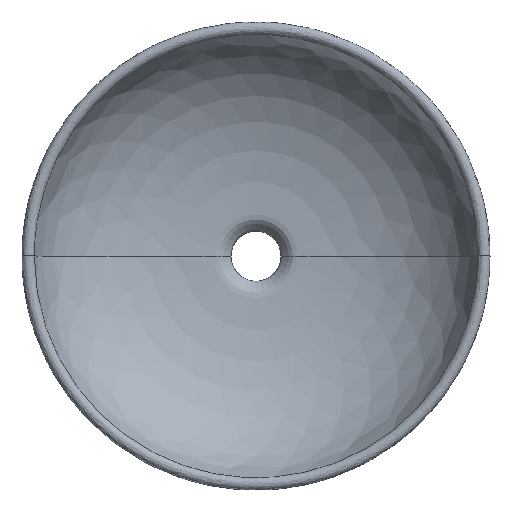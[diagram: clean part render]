
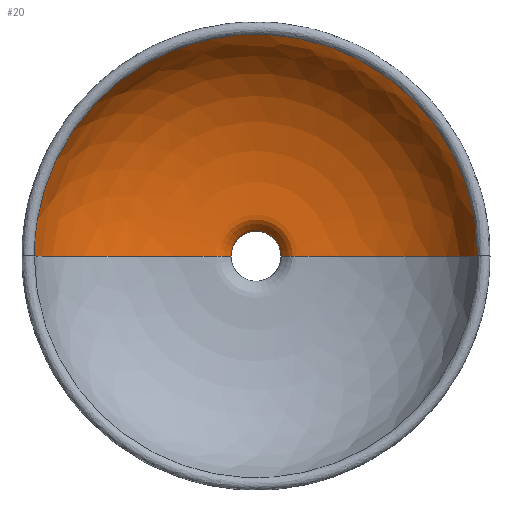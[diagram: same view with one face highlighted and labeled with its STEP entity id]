
A CAD part, top view. The second image highlights one B-rep face of the part: STEP entity #20.
In plain terms, the highlighted free-form (B-spline) face has degree [2, 2] with [11, 5] control points.
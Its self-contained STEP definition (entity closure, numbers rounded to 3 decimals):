
#20=ADVANCED_FACE('',(#26),#96,.T.);
#26=FACE_OUTER_BOUND('',#32,.T.);
#32=EDGE_LOOP('',(#47,#48,#49,#50));
#47=ORIENTED_EDGE('',*,*,#65,.T.);
#48=ORIENTED_EDGE('',*,*,#66,.T.);
#49=ORIENTED_EDGE('',*,*,#61,.F.);
#50=ORIENTED_EDGE('',*,*,#67,.F.);
#61=EDGE_CURVE('',#88,#87,#76,.T.);
#65=EDGE_CURVE('',#90,#91,#79,.T.);
#66=EDGE_CURVE('',#91,#87,#80,.T.);
#67=EDGE_CURVE('',#90,#88,#81,.T.);
#76=(
BOUNDED_CURVE()
B_SPLINE_CURVE(2,(#414,#415,#416,#417,#418,#419,#420,#421,#422,#423,#424),
 .UNSPECIFIED.,.F.,.F.)
B_SPLINE_CURVE_WITH_KNOTS((3,2,2,2,2,3),(345.792,358.721,
362.648,369.8,379.048,563.429),
 .UNSPECIFIED.)
CURVE()
GEOMETRIC_REPRESENTATION_ITEM()
RATIONAL_B_SPLINE_CURVE((1.,1.,1.,0.924,1.,1.,1.,0.927,
0.994,0.867,1.))
REPRESENTATION_ITEM('')
);
#79=(
BOUNDED_CURVE()
B_SPLINE_CURVE(2,(#437,#438,#439,#440,#441,#442,#443,#444,#445,#446,#447),
 .UNSPECIFIED.,.F.,.F.)
B_SPLINE_CURVE_WITH_KNOTS((3,2,2,2,2,3),(345.792,358.721,
362.648,369.8,379.048,563.429),
 .UNSPECIFIED.)
CURVE()
GEOMETRIC_REPRESENTATION_ITEM()
RATIONAL_B_SPLINE_CURVE((1.,1.,1.,0.924,1.,1.,1.,0.927,
0.994,0.867,1.))
REPRESENTATION_ITEM('')
);
#80=(
BOUNDED_CURVE()
B_SPLINE_CURVE(2,(#448,#449,#450,#451,#452),.UNSPECIFIED.,.F.,.F.)
B_SPLINE_CURVE_WITH_KNOTS((3,2,3),(659.734,989.602,1319.469),
 .UNSPECIFIED.)
CURVE()
GEOMETRIC_REPRESENTATION_ITEM()
RATIONAL_B_SPLINE_CURVE((1.,0.707,1.,0.707,1.))
REPRESENTATION_ITEM('')
);
#81=(
BOUNDED_CURVE()
B_SPLINE_CURVE(2,(#453,#454,#455,#456,#457),.UNSPECIFIED.,.F.,.F.)
B_SPLINE_CURVE_WITH_KNOTS((3,2,3),(659.734,989.602,1319.469),
 .UNSPECIFIED.)
CURVE()
GEOMETRIC_REPRESENTATION_ITEM()
RATIONAL_B_SPLINE_CURVE((1.,0.707,1.,0.707,1.))
REPRESENTATION_ITEM('')
);
#87=VERTEX_POINT('',#396);
#88=VERTEX_POINT('',#397);
#90=VERTEX_POINT('',#399);
#91=VERTEX_POINT('',#400);
#96=(
BOUNDED_SURFACE()
B_SPLINE_SURFACE(2,2,((#296,#297,#298,#299,#300),(#301,#302,#303,#304,#305),
(#306,#307,#308,#309,#310),(#311,#312,#313,#314,#315),(#316,#317,#318,#319,
#320),(#321,#322,#323,#324,#325),(#326,#327,#328,#329,#330),(#331,#332,
#333,#334,#335),(#336,#337,#338,#339,#340),(#341,#342,#343,#344,#345),(#346,
#347,#348,#349,#350)),.UNSPECIFIED.,.F.,.F.,.F.)
B_SPLINE_SURFACE_WITH_KNOTS((3,2,2,2,2,3),(3,2,3),(345.792,358.721,
362.648,369.8,379.048,563.429),(659.734,
989.602,1319.469),.UNSPECIFIED.)
GEOMETRIC_REPRESENTATION_ITEM()
RATIONAL_B_SPLINE_SURFACE(((1.,0.707,1.,0.707,1.),
(1.,0.707,1.,0.707,1.),(1.,0.707,1.,
0.707,1.),(0.924,0.653,0.924,
0.653,0.924),(1.,0.707,1.,0.707,
1.),(1.,0.707,1.,0.707,1.),(1.,0.707,
1.,0.707,1.),(0.927,0.655,0.927,
0.655,0.927),(0.994,0.703,
0.994,0.703,0.994),(0.849,
0.601,0.849,0.601,0.849),
(0.961,0.679,0.961,0.679,
0.961)))
REPRESENTATION_ITEM('')
SURFACE()
);
#296=CARTESIAN_POINT('',(22.5,0.,0.));
#297=CARTESIAN_POINT('',(22.5,22.5,0.));
#298=CARTESIAN_POINT('',(0.,22.5,0.));
#299=CARTESIAN_POINT('',(-22.5,22.5,0.));
#300=CARTESIAN_POINT('',(-22.5,0.,0.));
#301=CARTESIAN_POINT('',(22.5,0.,6.464));
#302=CARTESIAN_POINT('',(22.5,22.5,6.464));
#303=CARTESIAN_POINT('',(0.,22.5,6.464));
#304=CARTESIAN_POINT('',(-22.5,22.5,6.464));
#305=CARTESIAN_POINT('',(-22.5,0.,6.464));
#306=CARTESIAN_POINT('',(22.5,0.,12.929));
#307=CARTESIAN_POINT('',(22.5,22.5,12.929));
#308=CARTESIAN_POINT('',(0.,22.5,12.929));
#309=CARTESIAN_POINT('',(-22.5,22.5,12.929));
#310=CARTESIAN_POINT('',(-22.5,0.,12.929));
#311=CARTESIAN_POINT('',(22.5,0.,15.));
#312=CARTESIAN_POINT('',(22.5,22.5,15.));
#313=CARTESIAN_POINT('',(0.,22.5,15.));
#314=CARTESIAN_POINT('',(-22.5,22.5,15.));
#315=CARTESIAN_POINT('',(-22.5,0.,15.));
#316=CARTESIAN_POINT('',(23.964,0.,16.464));
#317=CARTESIAN_POINT('',(23.964,23.964,16.464));
#318=CARTESIAN_POINT('',(0.,23.964,16.464));
#319=CARTESIAN_POINT('',(-23.964,23.964,16.464));
#320=CARTESIAN_POINT('',(-23.964,0.,16.464));
#321=CARTESIAN_POINT('',(26.493,0.,18.993));
#322=CARTESIAN_POINT('',(26.493,26.493,18.993));
#323=CARTESIAN_POINT('',(0.,26.493,18.993));
#324=CARTESIAN_POINT('',(-26.493,26.493,18.993));
#325=CARTESIAN_POINT('',(-26.493,0.,18.993));
#326=CARTESIAN_POINT('',(29.022,0.,21.522));
#327=CARTESIAN_POINT('',(29.022,29.022,21.522));
#328=CARTESIAN_POINT('',(0.,29.022,21.522));
#329=CARTESIAN_POINT('',(-29.022,29.022,21.522));
#330=CARTESIAN_POINT('',(-29.022,0.,21.522));
#331=CARTESIAN_POINT('',(32.464,0.,24.964));
#332=CARTESIAN_POINT('',(32.464,32.464,24.964));
#333=CARTESIAN_POINT('',(0.,32.464,24.964));
#334=CARTESIAN_POINT('',(-32.464,32.464,24.964));
#335=CARTESIAN_POINT('',(-32.464,0.,24.964));
#336=CARTESIAN_POINT('',(37.33,0.,25.035));
#337=CARTESIAN_POINT('',(37.33,37.33,25.035));
#338=CARTESIAN_POINT('',(0.,37.33,25.035));
#339=CARTESIAN_POINT('',(-37.33,37.33,25.035));
#340=CARTESIAN_POINT('',(-37.33,0.,25.035));
#341=CARTESIAN_POINT('',(175.047,0.,27.065));
#342=CARTESIAN_POINT('',(175.047,175.047,27.065));
#343=CARTESIAN_POINT('',(0.,175.047,27.065));
#344=CARTESIAN_POINT('',(-175.047,175.047,27.065));
#345=CARTESIAN_POINT('',(-175.047,0.,27.065));
#346=CARTESIAN_POINT('',(199.019,0.,115.869));
#347=CARTESIAN_POINT('',(199.019,199.019,115.869));
#348=CARTESIAN_POINT('',(0.,199.019,115.869));
#349=CARTESIAN_POINT('',(-199.019,199.019,115.869));
#350=CARTESIAN_POINT('',(-199.019,0.,115.869));
#396=CARTESIAN_POINT('',(-199.019,0.,115.869));
#397=CARTESIAN_POINT('',(-22.5,0.,0.));
#399=CARTESIAN_POINT('',(22.5,0.,0.));
#400=CARTESIAN_POINT('',(199.019,0.,115.869));
#414=CARTESIAN_POINT('',(-22.5,0.,0.));
#415=CARTESIAN_POINT('',(-22.5,0.,6.464));
#416=CARTESIAN_POINT('',(-22.5,0.,12.929));
#417=CARTESIAN_POINT('',(-22.5,0.,15.));
#418=CARTESIAN_POINT('',(-23.964,0.,16.464));
#419=CARTESIAN_POINT('',(-26.493,0.,18.993));
#420=CARTESIAN_POINT('',(-29.022,0.,21.522));
#421=CARTESIAN_POINT('',(-32.464,0.,24.964));
#422=CARTESIAN_POINT('',(-37.33,0.,25.035));
#423=CARTESIAN_POINT('',(-175.047,0.,27.065));
#424=CARTESIAN_POINT('',(-199.019,0.,115.869));
#437=CARTESIAN_POINT('',(22.5,0.,0.));
#438=CARTESIAN_POINT('',(22.5,0.,6.464));
#439=CARTESIAN_POINT('',(22.5,0.,12.929));
#440=CARTESIAN_POINT('',(22.5,0.,15.));
#441=CARTESIAN_POINT('',(23.964,0.,16.464));
#442=CARTESIAN_POINT('',(26.493,0.,18.993));
#443=CARTESIAN_POINT('',(29.022,0.,21.522));
#444=CARTESIAN_POINT('',(32.464,0.,24.964));
#445=CARTESIAN_POINT('',(37.33,0.,25.035));
#446=CARTESIAN_POINT('',(175.047,0.,27.065));
#447=CARTESIAN_POINT('',(199.019,0.,115.869));
#448=CARTESIAN_POINT('',(199.019,0.,115.869));
#449=CARTESIAN_POINT('',(199.019,199.019,115.869));
#450=CARTESIAN_POINT('',(0.,199.019,115.869));
#451=CARTESIAN_POINT('',(-199.019,199.019,115.869));
#452=CARTESIAN_POINT('',(-199.019,0.,115.869));
#453=CARTESIAN_POINT('',(22.5,0.,0.));
#454=CARTESIAN_POINT('',(22.5,22.5,0.));
#455=CARTESIAN_POINT('',(0.,22.5,0.));
#456=CARTESIAN_POINT('',(-22.5,22.5,0.));
#457=CARTESIAN_POINT('',(-22.5,0.,0.));
